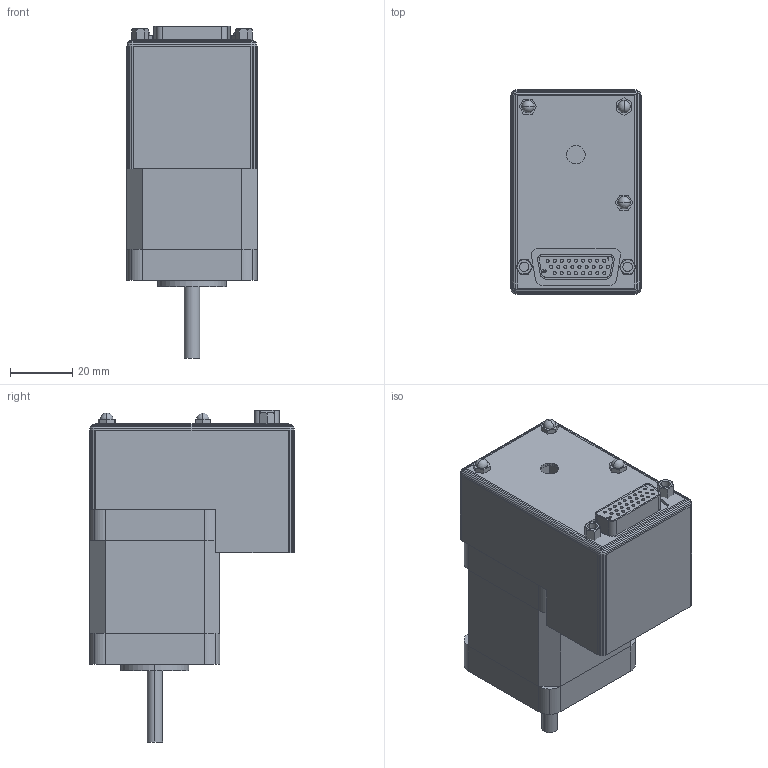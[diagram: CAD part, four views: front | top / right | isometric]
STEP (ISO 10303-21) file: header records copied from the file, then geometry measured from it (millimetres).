
FILE_DESCRIPTION(('STEP AP214'),'1');
FILE_NAME('Z:\toNS\tmp0.step',' ',(' '),(' '),'XStep 1.0',' ',' ');
FILE_SCHEMA(('automotive_design'));
Length unit declared in the file: millimetre
Products named in the file (20): DGBH26F|DGB15F-MA1;NONE; DGBH26F|3AA06-001;NONE; DGBH26F|SDH26S_Without Mounting Flange and Solder Cups;NONE
Bounding box: 42.04 x 66 x 107.07 mm (x, y, z)
Volume: 103589.4 mm3; surface area: 48328.5 mm2
Topology: 20 solids, 20 shells, 1035 faces, 2574 edges, 1640 vertices
Faces by surface type: plane 758, cylinder 132, bspline 117, torus 18, sphere 10
Entity records: 57673 total; most frequent: CARTESIAN_POINT 16342, ORIENTED_EDGE 5136, DIRECTION 4518, STYLED_ITEM 3007, PRESENTATION_STYLE_ASSIGNMENT 3007, COLOUR_RGB 3007, EDGE_CURVE 2568, LINE 1998
